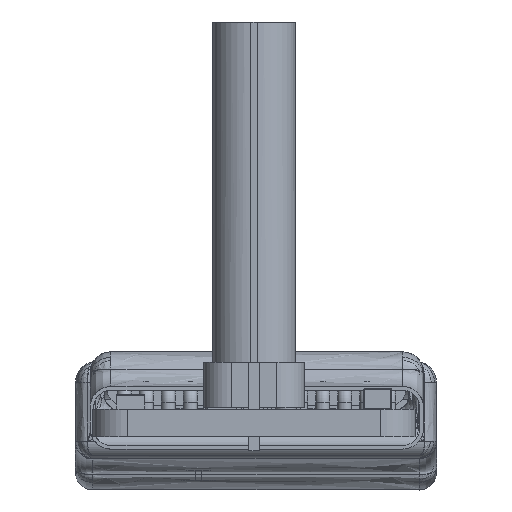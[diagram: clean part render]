
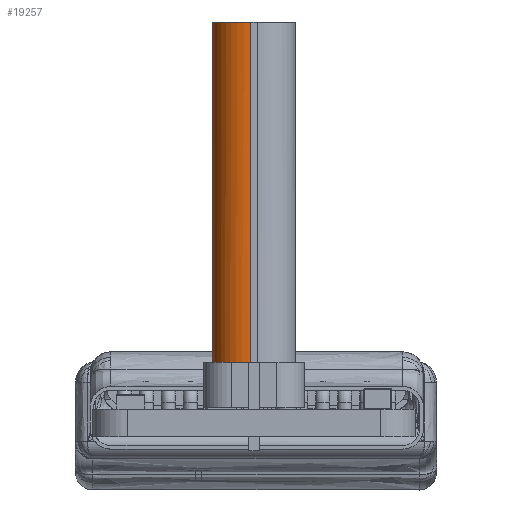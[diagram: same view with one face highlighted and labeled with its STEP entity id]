
A CAD part, front view. The second image highlights one B-rep face of the part: STEP entity #19257.
In plain terms, the highlighted cylindrical face has radius 1.1 mm (diameter 2.2 mm), a partial arc.
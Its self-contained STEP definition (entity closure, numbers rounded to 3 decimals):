
#17447 = VERTEX_POINT('',#17448);
#17448 = CARTESIAN_POINT('',(-0.25,1.3,-1.35));
#17454 = EDGE_CURVE('',#17447,#17455,#17457,.T.);
#17455 = VERTEX_POINT('',#17456);
#17456 = CARTESIAN_POINT('',(-0.252,1.3,-1.28));
#17457 = CIRCLE('',#17458,1.1);
#17458 = AXIS2_PLACEMENT_3D('',#17459,#17460,#17461);
#17459 = CARTESIAN_POINT('',(-1.35,1.3,-1.35));
#17460 = DIRECTION('',(0.,-1.,0.));
#17461 = DIRECTION('',(0.,-0.,-1.));
#17918 = EDGE_CURVE('',#17455,#17919,#17921,.T.);
#17919 = VERTEX_POINT('',#17920);
#17920 = CARTESIAN_POINT('',(-1.35,1.3,-0.25));
#17921 = CIRCLE('',#17922,1.1);
#17922 = AXIS2_PLACEMENT_3D('',#17923,#17924,#17925);
#17923 = CARTESIAN_POINT('',(-1.35,1.3,-1.35));
#17924 = DIRECTION('',(0.,-1.,0.));
#17925 = DIRECTION('',(0.,-0.,-1.));
#18500 = VERTEX_POINT('',#18501);
#18501 = CARTESIAN_POINT('',(-1.35,11.1,-0.25));
#18507 = EDGE_CURVE('',#18500,#18508,#18510,.T.);
#18508 = VERTEX_POINT('',#18509);
#18509 = CARTESIAN_POINT('',(-0.25,11.1,-1.35));
#18510 = CIRCLE('',#18511,1.1);
#18511 = AXIS2_PLACEMENT_3D('',#18512,#18513,#18514);
#18512 = CARTESIAN_POINT('',(-1.35,11.1,-1.35));
#18513 = DIRECTION('',(-0.,1.,0.));
#18514 = DIRECTION('',(0.,0.,-1.));
#18712 = EDGE_CURVE('',#17919,#18500,#18713,.T.);
#18713 = LINE('',#18714,#18715);
#18714 = CARTESIAN_POINT('',(-1.35,11.1,-0.25));
#18715 = VECTOR('',#18716,1.);
#18716 = DIRECTION('',(-0.,1.,-0.));
#18741 = EDGE_CURVE('',#18508,#17447,#18742,.T.);
#18742 = LINE('',#18743,#18744);
#18743 = CARTESIAN_POINT('',(-0.25,11.1,-1.35));
#18744 = VECTOR('',#18745,1.);
#18745 = DIRECTION('',(0.,-1.,0.));
#19257 = ADVANCED_FACE('',(#19258),#19265,.T.);
#19258 = FACE_BOUND('',#19259,.T.);
#19259 = EDGE_LOOP('',(#19260,#19261,#19262,#19263,#19264));
#19260 = ORIENTED_EDGE('',*,*,#18507,.F.);
#19261 = ORIENTED_EDGE('',*,*,#18712,.F.);
#19262 = ORIENTED_EDGE('',*,*,#17918,.F.);
#19263 = ORIENTED_EDGE('',*,*,#17454,.F.);
#19264 = ORIENTED_EDGE('',*,*,#18741,.F.);
#19265 = CYLINDRICAL_SURFACE('',#19266,1.1);
#19266 = AXIS2_PLACEMENT_3D('',#19267,#19268,#19269);
#19267 = CARTESIAN_POINT('',(-1.35,11.1,-1.35));
#19268 = DIRECTION('',(0.,-1.,0.));
#19269 = DIRECTION('',(0.,-0.,-1.));
